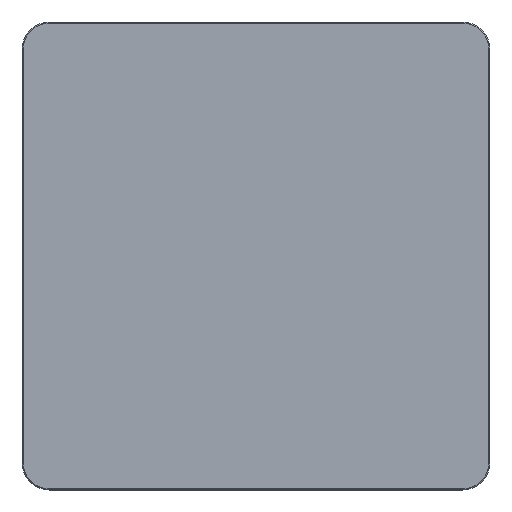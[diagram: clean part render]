
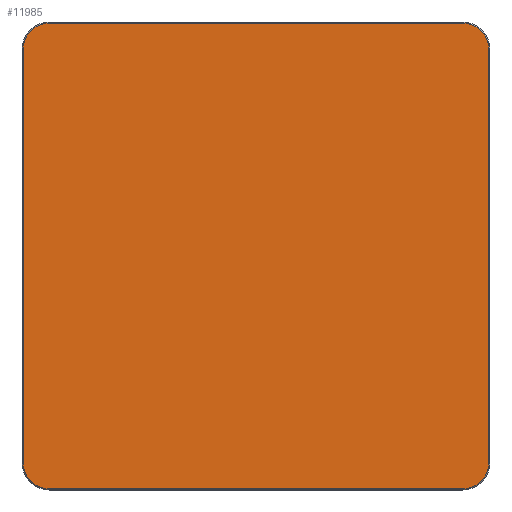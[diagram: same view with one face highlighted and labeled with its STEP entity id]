
A CAD part, top view. The second image highlights one B-rep face of the part: STEP entity #11985.
In plain terms, the highlighted planar face has unit normal (0, 0, 1).
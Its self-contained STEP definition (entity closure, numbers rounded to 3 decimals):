
#11910=CARTESIAN_POINT('',(0.,0.,20.));
#11911=DIRECTION('',(1.,0.,0.));
#11912=DIRECTION('',(0.,0.,1.));
#11913=AXIS2_PLACEMENT_3D('',#11910,#11912,#11911);
#11914=PLANE('',#11913);
#11915=CARTESIAN_POINT('',(-265.,-298.5,20.));
#11916=VERTEX_POINT('',#11915);
#11917=CARTESIAN_POINT('',(265.,-298.5,20.));
#11918=VERTEX_POINT('',#11917);
#11919=CARTESIAN_POINT('',(-265.,-298.5,20.));
#11920=DIRECTION('',(1.,0.,0.));
#11921=VECTOR('',#11920,530.);
#11922=LINE('',#11919,#11921);
#11923=EDGE_CURVE('',#11916,#11918,#11922,.T.);
#11924=ORIENTED_EDGE('E105',*,*,#11923,.T.);
#11925=CARTESIAN_POINT('',(298.5,-265.,20.));
#11926=VERTEX_POINT('',#11925);
#11927=CARTESIAN_POINT('',(265.,-265.,20.));
#11928=DIRECTION('',(0.,-1.,0.));
#11929=DIRECTION('',(0.,0.,1.));
#11930=AXIS2_PLACEMENT_3D('',#11927,#11929,#11928);
#11931=CIRCLE('',#11930,33.5);
#11932=EDGE_CURVE('',#11918,#11926,#11931,.T.);
#11933=ORIENTED_EDGE('E107',*,*,#11932,.T.);
#11934=CARTESIAN_POINT('',(298.5,265.,20.));
#11935=VERTEX_POINT('',#11934);
#11936=CARTESIAN_POINT('',(298.5,-265.,20.));
#11937=DIRECTION('',(0.,1.,0.));
#11938=VECTOR('',#11937,530.);
#11939=LINE('',#11936,#11938);
#11940=EDGE_CURVE('',#11926,#11935,#11939,.T.);
#11941=ORIENTED_EDGE('E109',*,*,#11940,.T.);
#11942=CARTESIAN_POINT('',(265.,298.5,20.));
#11943=VERTEX_POINT('',#11942);
#11944=CARTESIAN_POINT('',(265.,265.,20.));
#11945=DIRECTION('',(1.,0.,0.));
#11946=DIRECTION('',(0.,0.,1.));
#11947=AXIS2_PLACEMENT_3D('',#11944,#11946,#11945);
#11948=CIRCLE('',#11947,33.5);
#11949=EDGE_CURVE('',#11935,#11943,#11948,.T.);
#11950=ORIENTED_EDGE('E111',*,*,#11949,.T.);
#11951=CARTESIAN_POINT('',(-265.,298.5,20.));
#11952=VERTEX_POINT('',#11951);
#11953=CARTESIAN_POINT('',(265.,298.5,20.));
#11954=DIRECTION('',(-1.,0.,0.));
#11955=VECTOR('',#11954,530.);
#11956=LINE('',#11953,#11955);
#11957=EDGE_CURVE('',#11943,#11952,#11956,.T.);
#11958=ORIENTED_EDGE('E113',*,*,#11957,.T.);
#11959=CARTESIAN_POINT('',(-298.5,265.,20.));
#11960=VERTEX_POINT('',#11959);
#11961=CARTESIAN_POINT('',(-265.,265.,20.));
#11962=DIRECTION('',(0.,1.,0.));
#11963=DIRECTION('',(0.,0.,1.));
#11964=AXIS2_PLACEMENT_3D('',#11961,#11963,#11962);
#11965=CIRCLE('',#11964,33.5);
#11966=EDGE_CURVE('',#11952,#11960,#11965,.T.);
#11967=ORIENTED_EDGE('E115',*,*,#11966,.T.);
#11968=CARTESIAN_POINT('',(-298.5,-265.,20.));
#11969=VERTEX_POINT('',#11968);
#11970=CARTESIAN_POINT('',(-298.5,265.,20.));
#11971=DIRECTION('',(0.,-1.,0.));
#11972=VECTOR('',#11971,530.);
#11973=LINE('',#11970,#11972);
#11974=EDGE_CURVE('',#11960,#11969,#11973,.T.);
#11975=ORIENTED_EDGE('E117',*,*,#11974,.T.);
#11976=CARTESIAN_POINT('',(-265.,-265.,20.));
#11977=DIRECTION('',(-1.,0.,0.));
#11978=DIRECTION('',(0.,0.,1.));
#11979=AXIS2_PLACEMENT_3D('',#11976,#11978,#11977);
#11980=CIRCLE('',#11979,33.5);
#11981=EDGE_CURVE('',#11969,#11916,#11980,.T.);
#11982=ORIENTED_EDGE('E119',*,*,#11981,.T.);
#11983=EDGE_LOOP('',(#11924,#11933,#11941,#11950,#11958,#11967,#11975,#11982));
#11984=FACE_OUTER_BOUND('',#11983,.T.);
#11985=ADVANCED_FACE('F2',(#11984),#11914,.T.);
